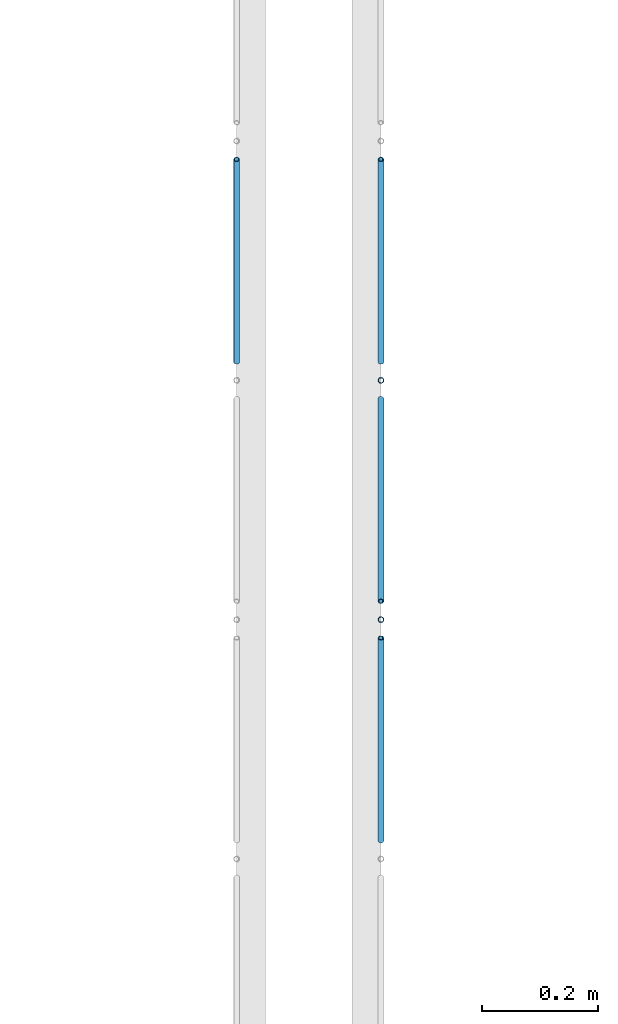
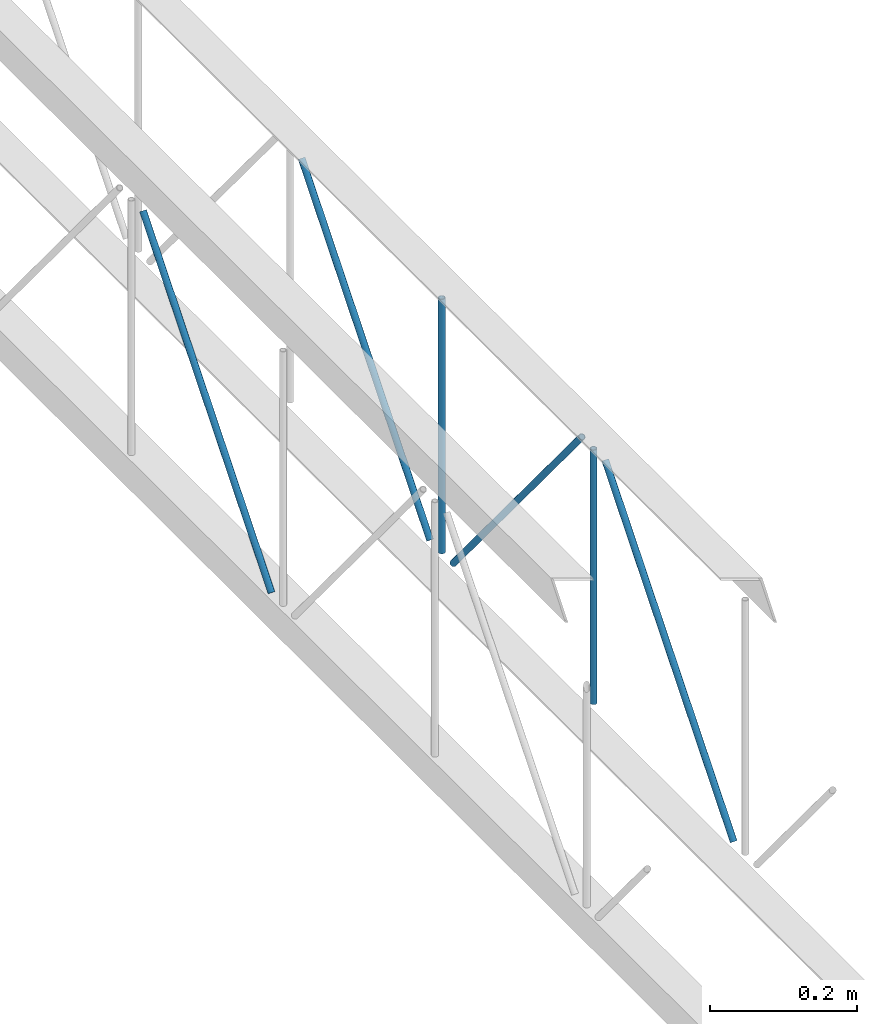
# One storey, part 50 of 153: 6 members, 2 elements without a shape of their own.
"""IFC4 building model written with IfcOpenShell, lengths in metres."""

from ifc_helpers import new_model, entity, si_unit, converted_unit, derived_unit, direction, frame, origin, place, context, subcontext, project, spatial, arc, indexed_curve, outline, extrude, source, transform, mapped, material, type_object, type_shapes, element, aggregate, save


model = new_model("IFC4")

# Units and contexts
model_context = context("Model", 3, precision=1e-05, world=origin(), true_north=direction((6.123031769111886e-17, 1.0)))
body_context = subcontext(model_context, "Body", "Model", "MODEL_VIEW")
ifc_project = project(units=[si_unit("LENGTHUNIT", "METRE"), si_unit("AREAUNIT", "SQUARE_METRE"), si_unit("VOLUMEUNIT", "CUBIC_METRE"), converted_unit("PLANEANGLEUNIT", "DEGREE", entity("IfcRatioMeasure", 0.017453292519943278), si_unit("PLANEANGLEUNIT", "RADIAN"), dimensions=[0, 0, 0, 0, 0, 0, 0]), si_unit("MASSUNIT", "GRAM", prefix="KILO"), derived_unit("MASSDENSITYUNIT", [(si_unit("MASSUNIT", "GRAM", prefix="KILO"), 1), (si_unit("LENGTHUNIT", "METRE"), -3)]), derived_unit("MOMENTOFINERTIAUNIT", [(si_unit("LENGTHUNIT", "METRE"), 4)]), si_unit("TIMEUNIT", "SECOND"), si_unit("FREQUENCYUNIT", "HERTZ"), si_unit("THERMODYNAMICTEMPERATUREUNIT", "DEGREE_CELSIUS"), derived_unit("THERMALTRANSMITTANCEUNIT", [(si_unit("MASSUNIT", "GRAM", prefix="KILO"), 1), (si_unit("THERMODYNAMICTEMPERATUREUNIT", "KELVIN"), -1), (si_unit("TIMEUNIT", "SECOND"), -3)]), derived_unit("VOLUMETRICFLOWRATEUNIT", [(si_unit("LENGTHUNIT", "METRE"), 3), (si_unit("TIMEUNIT", "SECOND"), -1)]), derived_unit("MASSFLOWRATEUNIT", [(si_unit("MASSUNIT", "GRAM", prefix="KILO"), 1), (si_unit("TIMEUNIT", "SECOND"), -1)]), derived_unit("ROTATIONALFREQUENCYUNIT", [(si_unit("TIMEUNIT", "SECOND"), -1)]), si_unit("ELECTRICCURRENTUNIT", "AMPERE"), si_unit("ELECTRICVOLTAGEUNIT", "VOLT"), si_unit("POWERUNIT", "WATT"), si_unit("FORCEUNIT", "NEWTON", prefix="KILO"), si_unit("ILLUMINANCEUNIT", "LUX"), si_unit("LUMINOUSFLUXUNIT", "LUMEN"), si_unit("LUMINOUSINTENSITYUNIT", "CANDELA"), derived_unit("USERDEFINED", [(si_unit("MASSUNIT", "GRAM", prefix="KILO"), -1), (si_unit("LENGTHUNIT", "METRE"), -2), (si_unit("TIMEUNIT", "SECOND"), 3), (si_unit("LUMINOUSFLUXUNIT", "LUMEN"), 1)]), derived_unit("SOUNDPOWERUNIT", [(si_unit("MASSUNIT", "GRAM", prefix="KILO"), 1), (si_unit("LENGTHUNIT", "METRE"), 2), (si_unit("TIMEUNIT", "SECOND"), -3)]), derived_unit("SOUNDPRESSUREUNIT", [(si_unit("MASSUNIT", "GRAM", prefix="KILO"), 1), (si_unit("LENGTHUNIT", "METRE"), -1), (si_unit("TIMEUNIT", "SECOND"), -2)]), derived_unit("LINEARVELOCITYUNIT", [(si_unit("LENGTHUNIT", "METRE"), 1), (si_unit("TIMEUNIT", "SECOND"), -1)]), si_unit("PRESSUREUNIT", "PASCAL"), derived_unit("USERDEFINED", [(si_unit("LENGTHUNIT", "METRE"), -2), (si_unit("MASSUNIT", "GRAM", prefix="KILO"), 1), (si_unit("TIMEUNIT", "SECOND"), -2)]), derived_unit("LINEARFORCEUNIT", [(si_unit("MASSUNIT", "GRAM", prefix="KILO"), 1), (si_unit("LENGTHUNIT", "METRE"), 1), (si_unit("TIMEUNIT", "SECOND"), -2), (si_unit("LENGTHUNIT", "METRE"), -1)]), derived_unit("PLANARFORCEUNIT", [(si_unit("MASSUNIT", "GRAM", prefix="KILO"), 1), (si_unit("LENGTHUNIT", "METRE"), 1), (si_unit("TIMEUNIT", "SECOND"), -2), (si_unit("LENGTHUNIT", "METRE"), -2)])], contexts=[model_context])

# Site, building, storey
site_placement = place(None, origin())
site = spatial("IfcSite", under=ifc_project, at=site_placement, Name="Superficie", CompositionType="ELEMENT")
building_placement = place(site_placement, origin())
building = spatial("IfcBuilding", under=site, at=building_placement, CompositionType="ELEMENT")
storey_placement = place(building_placement, frame((0.0, 0.0, 3.5999999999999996)))
storey = spatial("IfcBuildingStorey", under=building, at=storey_placement, Name="Nivel 1", CompositionType="ELEMENT", Elevation=3.5999999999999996)

# Assembly, member
assembly_1_placement = place(storey_placement, origin())
assembly_1 = element("IfcElementAssembly", 1, at=assembly_1_placement, inside=storey, Name="Viga de celosia 13:Viga de celosia 13", ObjectType="Viga de celosia 13:Viga de celosia 13", AssemblyPlace="NOTDEFINED", PredefinedType="TRUSS")
ifc_material = material(Name="Metal - Calibre delgado", Category="Metal")
member_type_1 = type_object("IfcMemberType", Name="HSS-Tubo estructural redondo:HSS 0.01", PredefinedType="BRACE", material=ifc_material)
shared_shape_1 = source(origin(), body_context, "Body", "SweptSolid", [
    extrude(outline(indexed_curve([(-0.005000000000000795, 7.502054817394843e-18), (-9.800269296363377e-18, -0.005000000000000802), (0.005000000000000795, -7.502054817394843e-18), (8.07772287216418e-18, 0.005000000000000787)], segments=[arc(1, 2, 3), arc(3, 4, 1)], self_intersect=False), holes=[indexed_curve([(0.003999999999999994, 7.222511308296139e-17), (6.910645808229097e-17, -0.004000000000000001), (-0.003999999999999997, -1.8650054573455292e-17), (-2.9156497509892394e-17, 0.003999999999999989)], segments=[arc(1, 2, 3), arc(3, 4, 1)], self_intersect=False)]), frame((-0.275, 0.0, 0.0), z_axis=(1.0, 0.0, 0.0), x_axis=(0.0, 1.0, 0.0)), (0.0, 0.0, 1.0), 0.55),
])
type_shapes(member_type_1, [shared_shape_1])
member_1_placement = place(assembly_1_placement, frame((-3.9132009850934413, -5.198164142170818, 0.25000000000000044), z_axis=(0.0, 0.7699758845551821, -0.6380729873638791), x_axis=(0.0, 0.6380729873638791, 0.7699758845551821)))
member_1 = element("IfcMember", 2, at=member_1_placement, type_object=member_type_1, material=ifc_material, Name="HSS-Tubo estructural redondo:HSS 0.01", ObjectType="HSS-Tubo estructural redondo:HSS 0.01", PredefinedType="BRACE", context=body_context, shape_type="MappedRepresentation", body=[
    mapped(shared_shape_1, transform((0.0, 0.0, 0.0), scale=1.0)),
])
aggregate(assembly_1, [member_1])

# Assembly, members
assembly_2_placement = place(storey_placement, origin())
assembly_2 = element("IfcElementAssembly", 3, at=assembly_2_placement, inside=storey, Name="Viga de celosia 13:Viga de celosia 13", ObjectType="Viga de celosia 13:Viga de celosia 13", AssemblyPlace="NOTDEFINED", PredefinedType="TRUSS")
member_type_2 = type_object("IfcMemberType", Name="HSS-Tubo estructural redondo:HSS 0.01", PredefinedType="BRACE", material=ifc_material)
shared_shape_2 = source(origin(), body_context, "Body", "SweptSolid", [
    extrude(outline(indexed_curve([(-0.005000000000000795, 2.0824731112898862e-17), (-2.3122945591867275e-17, -0.005000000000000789), (0.005000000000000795, -2.08247311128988e-17), (2.14003991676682e-17, 0.005000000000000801)], segments=[arc(1, 2, 3), arc(3, 4, 1)], self_intersect=False), holes=[indexed_curve([(0.003999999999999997, -1.3094283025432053e-17), (-1.531427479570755e-18, -0.003999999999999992), (-0.004, 4.0098531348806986e-17), (4.1481388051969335e-17, 0.0039999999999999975)], segments=[arc(1, 2, 3), arc(3, 4, 1)], self_intersect=False)]), frame((-0.21200000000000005, 0.0, 0.0), z_axis=(1.0, 0.0, 0.0), x_axis=(0.0, -1.0, 0.0)), (0.0, 0.0, 1.0), 0.4240000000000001),
])
type_shapes(member_type_2, [shared_shape_2])
member_2_placement = place(assembly_2_placement, frame((-3.663200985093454, -5.819683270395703, 0.25), z_axis=(0.0, 1.0, 0.0), x_axis=(0.0, 0.0, 1.0)))
member_2 = element("IfcMember", 4, at=member_2_placement, type_object=member_type_2, material=ifc_material, Name="HSS-Tubo estructural redondo:HSS 0.01", ObjectType="HSS-Tubo estructural redondo:HSS 0.01", PredefinedType="BRACE", context=body_context, shape_type="MappedRepresentation", body=[
    mapped(shared_shape_2, transform((0.0, 0.0, 0.0), scale=1.0)),
])
member_3_placement = place(assembly_2_placement, frame((-3.6632009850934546, -5.40533718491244, 0.25), z_axis=(0.0, 1.0, 0.0), x_axis=(0.0, 0.0, 1.0)))
member_3 = element("IfcMember", 5, at=member_3_placement, type_object=member_type_2, material=ifc_material, Name="HSS-Tubo estructural redondo:HSS 0.01", ObjectType="HSS-Tubo estructural redondo:HSS 0.01", PredefinedType="BRACE", context=body_context, shape_type="MappedRepresentation", body=[
    mapped(shared_shape_2, transform((0.0, 0.0, 0.0), scale=1.0)),
])
member_type_3 = type_object("IfcMemberType", Name="HSS-Tubo estructural redondo:HSS 0.01", PredefinedType="BRACE", material=ifc_material)
shared_shape_3 = source(origin(), body_context, "Body", "SweptSolid", [
    extrude(outline(indexed_curve([(-0.005000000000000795, 2.0824731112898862e-17), (-2.3122945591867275e-17, -0.005000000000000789), (0.005000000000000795, -2.08247311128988e-17), (2.14003991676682e-17, 0.005000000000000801)], segments=[arc(1, 2, 3), arc(3, 4, 1)], self_intersect=False), holes=[indexed_curve([(0.003999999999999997, -1.3094283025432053e-17), (-1.531427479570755e-18, -0.003999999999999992), (-0.004, 4.0098531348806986e-17), (4.1481388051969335e-17, 0.0039999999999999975)], segments=[arc(1, 2, 3), arc(3, 4, 1)], self_intersect=False)]), frame((-0.275, 0.0, 0.0), z_axis=(1.0, 0.0, 0.0), x_axis=(0.0, -1.0, 0.0)), (0.0, 0.0, 1.0), 0.55),
])
type_shapes(member_type_3, [shared_shape_3])
member_4_placement = place(assembly_2_placement, frame((-3.6632009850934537, -6.026856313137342, 0.25000000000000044), z_axis=(0.0, 0.7699758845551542, -0.6380729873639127), x_axis=(0.0, 0.6380729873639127, 0.7699758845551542)))
member_4 = element("IfcMember", 6, at=member_4_placement, type_object=member_type_3, material=ifc_material, Name="HSS-Tubo estructural redondo:HSS 0.01", ObjectType="HSS-Tubo estructural redondo:HSS 0.01", PredefinedType="BRACE", context=body_context, shape_type="MappedRepresentation", body=[
    mapped(shared_shape_3, transform((0.0, 0.0, 0.0), scale=1.0)),
])
member_5_placement = place(assembly_2_placement, frame((-3.6632009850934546, -5.612510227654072, 0.25), z_axis=(0.0, -0.7699758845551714, -0.638072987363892), x_axis=(0.0, 0.638072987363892, -0.7699758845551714)))
member_5 = element("IfcMember", 7, at=member_5_placement, type_object=member_type_3, material=ifc_material, Name="HSS-Tubo estructural redondo:HSS 0.01", ObjectType="HSS-Tubo estructural redondo:HSS 0.01", PredefinedType="BRACE", context=body_context, shape_type="MappedRepresentation", body=[
    mapped(shared_shape_3, transform((0.0, 0.0, 0.0), scale=1.0)),
])
member_6_placement = place(assembly_2_placement, frame((-3.6632009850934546, -5.198164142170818, 0.25000000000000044), z_axis=(0.0, 0.7699758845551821, -0.6380729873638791), x_axis=(0.0, 0.6380729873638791, 0.7699758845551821)))
member_6 = element("IfcMember", 8, at=member_6_placement, type_object=member_type_3, material=ifc_material, Name="HSS-Tubo estructural redondo:HSS 0.01", ObjectType="HSS-Tubo estructural redondo:HSS 0.01", PredefinedType="BRACE", context=body_context, shape_type="MappedRepresentation", body=[
    mapped(shared_shape_3, transform((0.0, 0.0, 0.0), scale=1.0)),
])
aggregate(assembly_2, [member_2, member_3, member_4, member_5, member_6])

save(model, "model.ifc")
